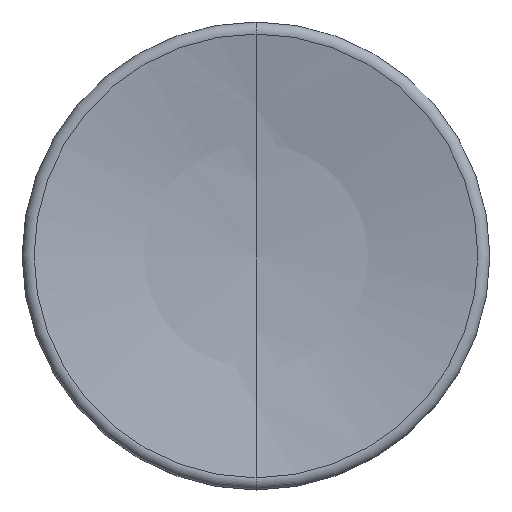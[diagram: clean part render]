
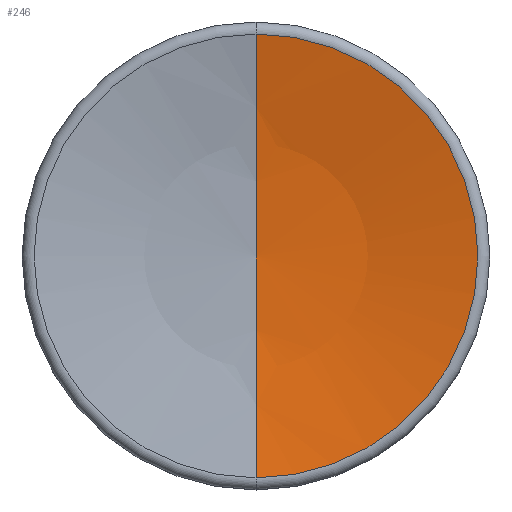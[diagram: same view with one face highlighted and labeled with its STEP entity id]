
A CAD part, top view. The second image highlights one B-rep face of the part: STEP entity #246.
In plain terms, the highlighted spherical face has radius 48 mm.
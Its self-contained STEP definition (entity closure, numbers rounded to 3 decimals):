
#1=CARTESIAN_POINT('',(0.,0.,71.617));
#2=DIRECTION('',(-1.,0.,0.));
#3=DIRECTION('',(0.,0.,-1.));
#4=AXIS2_PLACEMENT_3D('',#1,#2,#3);
#6=CARTESIAN_POINT('',(0.,0.,71.617));
#7=DIRECTION('',(1.,0.,0.));
#8=DIRECTION('',(0.,0.,-1.));
#9=AXIS2_PLACEMENT_3D('',#6,#7,#8);
#26=CARTESIAN_POINT('',(0.,0.,24.986));
#27=DIRECTION('',(0.,0.,1.));
#28=DIRECTION('',(0.,-1.,0.));
#29=AXIS2_PLACEMENT_3D('',#26,#27,#28);
#189=CARTESIAN_POINT('',(0.,0.,23.617));
#190=CARTESIAN_POINT('',(0.,-11.381,24.986));
#191=VERTEX_POINT('',#189);
#192=VERTEX_POINT('',#190);
#193=CARTESIAN_POINT('',(0.,11.381,24.986));
#194=VERTEX_POINT('',#193);
#233=CARTESIAN_POINT('',(0.,0.,71.617));
#234=DIRECTION('',(0.,0.,1.));
#235=DIRECTION('',(0.,1.,0.));
#236=AXIS2_PLACEMENT_3D('',#233,#234,#235);
#237=SPHERICAL_SURFACE('',#236,48.);
#239=ORIENTED_EDGE('',*,*,#238,.F.);
#241=ORIENTED_EDGE('',*,*,#240,.T.);
#243=ORIENTED_EDGE('',*,*,#242,.F.);
#244=EDGE_LOOP('',(#239,#241,#243));
#245=FACE_OUTER_BOUND('',#244,.F.);
#246=ADVANCED_FACE('',(#245),#237,.F.);
#5=CIRCLE('',#4,48.);
#10=CIRCLE('',#9,48.);
#30=CIRCLE('',#29,11.381);
#238=EDGE_CURVE('',#191,#192,#5,.T.);
#240=EDGE_CURVE('',#191,#194,#10,.T.);
#242=EDGE_CURVE('',#192,#194,#30,.T.);
